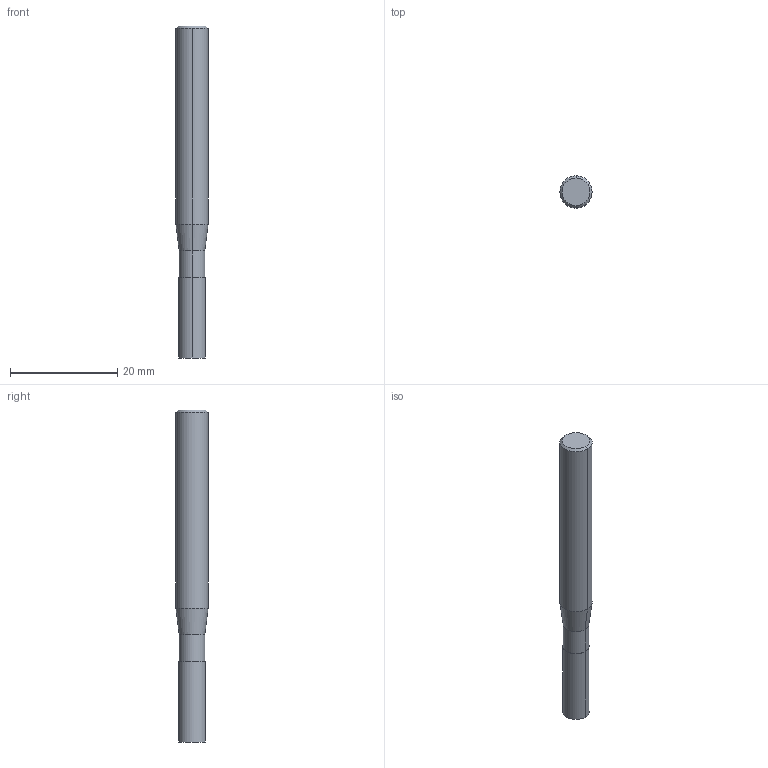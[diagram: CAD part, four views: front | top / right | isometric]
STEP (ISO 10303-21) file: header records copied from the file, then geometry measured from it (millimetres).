
FILE_DESCRIPTION((''),'2;1');
FILE_NAME('DIN4003_82_HEURO','2016-06-28T',('automb'),(''),'PRO/ENGINEER BY PARAMETRIC TECHNOLOGY CORPORATION, 2015280','PRO/ENGINEER BY PARAMETRIC TECHNOLOGY CORPORATION, 2015280','');
FILE_SCHEMA(('AUTOMOTIVE_DESIGN { 1 0 10303 214 1 1 1 1 }'));
Length unit declared in the file: millimetre
Products named in the file (1): DIN4003_82_HEURO
Bounding box: 6 x 6 x 62 mm (x, y, z)
Volume: 1544.7 mm3; surface area: 1138.7 mm2
Topology: 1 solids, 1 shells, 13 faces, 26 edges, 17 vertices
Faces by surface type: bspline 13
Entity records: 750 total; most frequent: CARTESIAN_POINT 251, DIRECTION 69, ORIENTED_EDGE 48, AXIS2_PLACEMENT_3D 26, EDGE_CURVE 24, PRESENTATION_STYLE_ASSIGNMENT 23, STYLED_ITEM 23, VECTOR 17
